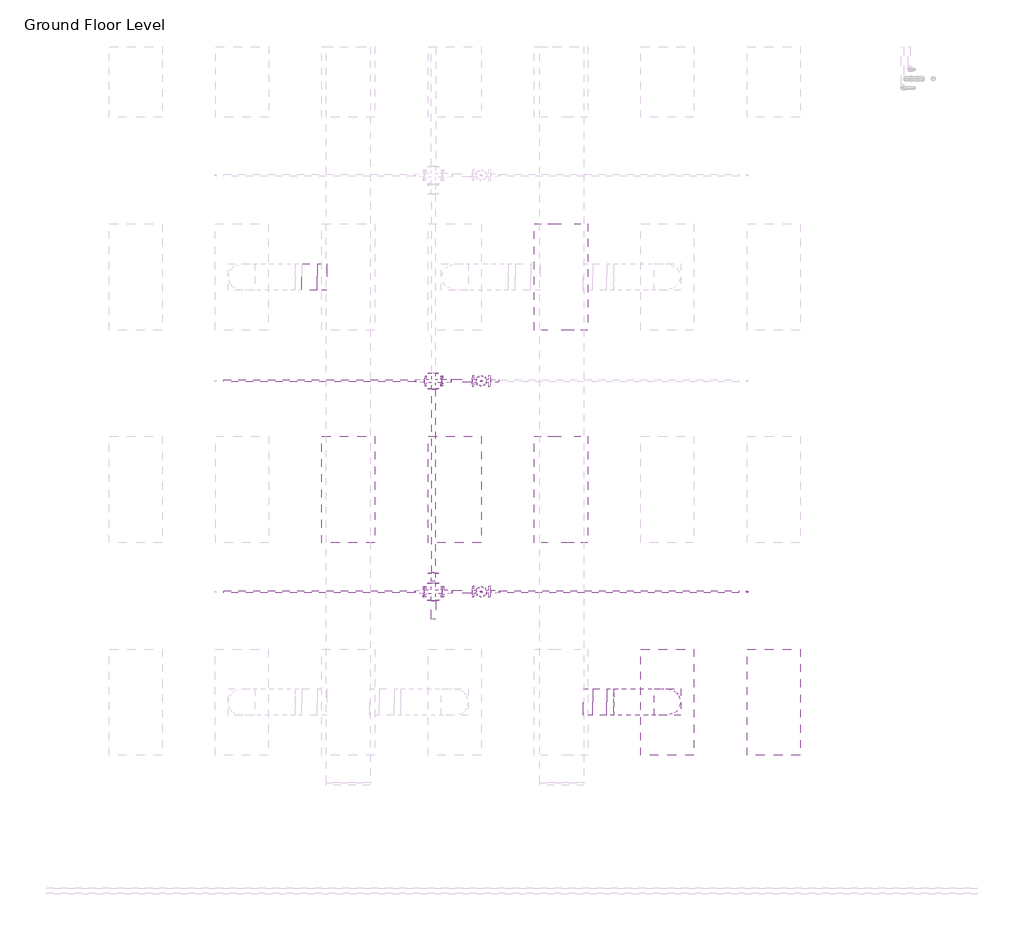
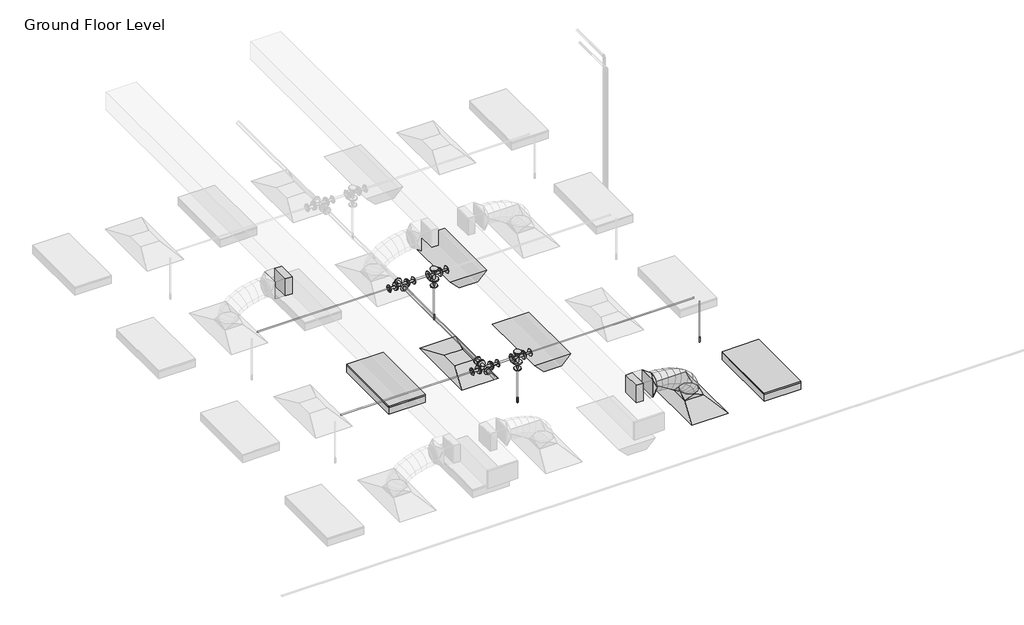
# One storey, part 45 of 74: 13 pipe fittings, 10 pipe segments, 4 duct fittings, 4 light fixtures, 3 duct segments, 3 fire suppression terminals, 2 air terminals.
"""IFC4 building model written with IfcOpenShell, lengths in millimetres."""

from ifc_helpers import new_model, si_unit, point, frame, frame_2d, origin, place, context, project, spatial, polyline, circle_curve, ellipse_curve, trimmed, segment, composite_curve, outline, extrude, transform, mapped, element, save
from ifc_brep_helpers import plane_surface, cylinder_surface, advanced_brep
from components import m_return_diffuser_1200x600_1200_x_600_face_300_x_300_d1983ef6, m_rectangular_takeoff_standard_cb0ccb98, m_rectangular_takeoff_standard_2be5eba1, m_rectangular_to_round_transition_angle_45_degree_641efff0, m_sprinkler_dry_pendent_hosted_15_mm_dry_pendent_9bda8e11, m_emergency_recessed_lighting_fixture_600x1200_277_5b10b25d, m_troffer_light_parabolic_rectangular1_0600x1200mm_4_lamp_86473d4a, m_cross_flanged_cs_class_150_standard_fc817054, m_cross_flanged_cs_class_150_standard_46ec961b, m_reducer_flanged_cs_class_150_standard_b6b67c23, m_reducer_flanged_cs_class_150_standard_ccf252ad, m_reducer_flanged_cs_class_150_standard_d42b2106, m_reducer_flanged_cs_class_150_standard_cc2a7c1d, m_reducer_flanged_cs_class_150_standard_83138b42, m_reducer_flanged_cs_class_150_standard_564df86d, m_reducer_flanged_cs_class_150_standard_8338f9e4, m_tee_round_base_flanged_cs_class_150_standard_7e5987a1

model = new_model("IFC4")

# Units and contexts
model_context = context("Model", 3, world=origin())
ifc_project = project(units=[si_unit("LENGTHUNIT", "METRE", prefix="MILLI")], contexts=[model_context])

# Site, building, storey
site = spatial("IfcSite", under=ifc_project)
building = spatial("IfcBuilding", under=site)
storey = spatial("IfcBuildingStorey", under=building, Name="Ground Floor Level", Elevation=900.0)

# Air terminals
placement = place(None, origin())
m_return_diffuser_1200x600_1200_x_600_face_300_x_300_shape = m_return_diffuser_1200x600_1200_x_600_face_300_x_300_d1983ef6(model_context)
element("IfcAirTerminal", 1, ObjectType="M_Return Diffuser 1200x600 : 1200 x 600 Face 300 x 300 Connection", at=placement, inside=storey, context=model_context, shape_type="MappedRepresentation", body=[
    mapped(m_return_diffuser_1200x600_1200_x_600_face_300_x_300_shape, transform((-5737.2327605, 4035.2153534, 3650.0), x_axis=(0.0, 1.0, 0.0), y_axis=(-1.0, 0.0, 0.0), z_axis=(0.0, 0.0, 1.0))),
])
element("IfcAirTerminal", 2, ObjectType="M_Supply Diffuser 1200x600 : 1200 x 600 Face 300 x 300 Connection", at=placement, inside=storey, context=model_context, shape_type="MappedRepresentation", body=[
    mapped(m_return_diffuser_1200x600_1200_x_600_face_300_x_300_shape, transform((-3337.2327605, 1635.2153534, 3650.0), x_axis=(0.0, 1.0, 0.0), y_axis=(-1.0, 0.0, 0.0), z_axis=(0.0, 0.0, 1.0))),
])

# Duct fittings
m_rectangular_takeoff_standard_shape = m_rectangular_takeoff_standard_cb0ccb98(model_context)
element("IfcDuctFitting", 3, ObjectType="M_Rectangular Takeoff : Standard", at=placement, inside=storey, context=model_context, shape_type="MappedRepresentation", body=[
    mapped(m_rectangular_takeoff_standard_shape, transform((-4278.6910789, 1635.2153534, 4150.0), x_axis=(1.0, 0.0, 0.0), y_axis=(0.0, -1.0, 0.0), z_axis=(0.0, 0.0, -1.0))),
])
m_rectangular_takeoff_standard_2_shape = m_rectangular_takeoff_standard_2be5eba1(model_context)
element("IfcDuctFitting", 4, ObjectType="M_Rectangular Takeoff : Standard", at=placement, inside=storey, context=model_context, shape_type="MappedRepresentation", body=[
    mapped(m_rectangular_takeoff_standard_2_shape, transform((-7189.6910789, 6435.2153534, 4150.0), x_axis=(-1.0, 0.0, 0.0), y_axis=(0.0, 1.0, 0.0), z_axis=(0.0, 0.0, -1.0))),
])
m_rectangular_to_round_transition_angle_45_degree_shape = m_rectangular_to_round_transition_angle_45_degree_641efff0(model_context)
element("IfcDuctFitting", 5, ObjectType="M_Rectangular to Round Transition - Angle : 45 Degree", at=placement, inside=storey, context=model_context, shape_type="MappedRepresentation", body=[
    mapped(m_rectangular_to_round_transition_angle_45_degree_shape, transform((-3337.2327605, 1635.2153534, 3751.6), x_axis=(0.0, 0.0, 1.0), y_axis=(-1.0, 0.0, 0.0), z_axis=(0.0, -1.0, 0.0))),
])
element("IfcDuctFitting", 6, ObjectType="M_Rectangular to Round Transition - Angle : 45 Degree", at=placement, inside=storey, context=model_context, shape_type="MappedRepresentation", body=[
    mapped(m_rectangular_to_round_transition_angle_45_degree_shape, transform((-4018.6354231, 1635.2153534, 4150.0), x_axis=(1.0, 0.0, 0.0), y_axis=(0.0, 1.0, 0.0), z_axis=(0.0, 0.0, 1.0))),
])

# Duct segments
element("IfcDuctSegment", 7, ObjectType="Flex - Round", at=placement, inside=storey, context=model_context, shape_type="AdvancedBrep", body=[
    advanced_brep(
    [(-3187.2327605, 1635.2153534, 3826.6), (-3337.2327605, 1485.2153534, 3826.6), (-3487.2327605, 1635.2153534, 3826.6), (-3337.2327605, 1785.2153534, 3826.6), (-3187.2327605, 1635.2153534, 3882.1248592), (-3337.2327605, 1485.2153534, 3857.3041834), (-3487.2327605, 1635.2153534, 3832.4835076), (-3337.2327605, 1785.2153534, 3857.3041834), (-3218.4243187, 1635.2153534, 3973.7949392), (-3353.8931369, 1485.2153534, 3906.2680098), (-3489.3619552, 1635.2153534, 3838.7410804), (-3353.8931369, 1785.2153534, 3906.2680098), (-3288.1539292, 1635.2153534, 4076.405552), (-3399.7683605, 1485.2153534, 3973.775698), (-3511.3827919, 1635.2153534, 3871.1458441), (-3399.7683605, 1785.2153534, 3973.775698), (-3386.0764792, 1635.2153534, 4155.7044937), (-3468.6995729, 1485.2153534, 4029.5970813), (-3551.3226667, 1635.2153534, 3903.4896689), (-3468.6995729, 1785.2153534, 4029.5970813), (-3494.8156459, 1635.2153534, 4212.2214394), (-3554.5279158, 1485.2153534, 4074.206176), (-3614.2401856, 1635.2153534, 3936.1909126), (-3554.5279158, 1785.2153534, 4074.206176), (-3609.1022421, 1635.2153534, 4252.3075608), (-3651.0945306, 1485.2153534, 4108.0769988), (-3693.0868191, 1635.2153534, 3963.8464368), (-3651.0945306, 1785.2153534, 4108.0769988), (-3724.828557, 1635.2153534, 4279.3170349), (-3752.240559, 1485.2153534, 4131.683566), (-3779.652561, 1635.2153534, 3984.0500972), (-3752.240559, 1785.2153534, 4131.683566), (-3837.483737, 1635.2153534, 4294.9495984), (-3851.8071426, 1485.2153534, 4145.4998943), (-3866.1305483, 1635.2153534, 3996.0501901), (-3851.8071426, 1785.2153534, 4145.4998943), (-3932.3013868, 1635.2153534, 4300.0), (-3936.2933845, 1485.2153534, 4150.0), (-3940.2853822, 1635.2153534, 4000.0), (-3936.2933845, 1785.2153534, 4150.0), (-3943.6354231, 1635.2153534, 4300.0), (-3943.6354231, 1785.2153534, 4150.0), (-3943.6354231, 1635.2153534, 4000.0), (-3943.6354231, 1485.2153534, 4150.0)],
    [
        (0, 1, circle_curve(frame((-3337.2327605, 1635.2153534, 3826.6), z_axis=(0.0, 0.0, -1.0), x_axis=(1.0, 0.0, 0.0)), 150.0)),
        (1, 2, circle_curve(frame((-3337.2327605, 1635.2153534, 3826.6), z_axis=(0.0, 0.0, -1.0), x_axis=(1.0, 0.0, 0.0)), 150.0)),
        (2, 3, circle_curve(frame((-3337.2327605, 1635.2153534, 3826.6), z_axis=(0.0, 0.0, -1.0), x_axis=(1.0, 0.0, 0.0)), 150.0)),
        (3, 0, circle_curve(frame((-3337.2327605, 1635.2153534, 3826.6), z_axis=(0.0, 0.0, -1.0), x_axis=(1.0, 0.0, 0.0)), 150.0)),
        (0, 4),
        (4, 5, ellipse_curve(frame((-3337.2327605, 1635.2153534, 3857.3041834), z_axis=(0.16325129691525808, 0.0, -0.9865845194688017), x_axis=(-0.9865845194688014, 0.0, -0.16325129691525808)), 152.0396854, 150.0)),
        (5, 1),
        (5, 6, ellipse_curve(frame((-3337.2327605, 1635.2153534, 3857.3041834), z_axis=(0.16325129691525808, 0.0, -0.9865845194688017), x_axis=(-0.9865845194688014, 0.0, -0.16325129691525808)), 152.0396854, 150.0)),
        (6, 2),
        (6, 7, ellipse_curve(frame((-3337.2327605, 1635.2153534, 3857.3041834), z_axis=(0.16325129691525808, 0.0, -0.9865845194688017), x_axis=(-0.9865845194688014, 0.0, -0.16325129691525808)), 152.0396854, 150.0)),
        (7, 3),
        (7, 4, ellipse_curve(frame((-3337.2327605, 1635.2153534, 3857.3041834), z_axis=(0.16325129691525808, 0.0, -0.9865845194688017), x_axis=(-0.9865845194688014, 0.0, -0.16325129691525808)), 152.0396854, 150.0)),
        (4, 8),
        (8, 9, ellipse_curve(frame((-3353.8931369, 1635.2153534, 3906.2680098), z_axis=(0.4461166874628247, 0.0, -0.894974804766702), x_axis=(-0.8949748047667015, 0.0, -0.4461166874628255)), 151.3660692, 150.0)),
        (9, 5),
        (9, 10, ellipse_curve(frame((-3353.8931369, 1635.2153534, 3906.2680098), z_axis=(0.4461166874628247, 0.0, -0.894974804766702), x_axis=(-0.8949748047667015, 0.0, -0.4461166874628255)), 151.3660692, 150.0)),
        (10, 6),
        (10, 11, ellipse_curve(frame((-3353.8931369, 1635.2153534, 3906.2680098), z_axis=(0.4461166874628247, 0.0, -0.894974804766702), x_axis=(-0.8949748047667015, 0.0, -0.4461166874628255)), 151.3660692, 150.0)),
        (11, 7),
        (11, 8, ellipse_curve(frame((-3353.8931369, 1635.2153534, 3906.2680098), z_axis=(0.4461166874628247, 0.0, -0.894974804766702), x_axis=(-0.8949748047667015, 0.0, -0.4461166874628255)), 151.3660692, 150.0)),
        (8, 12),
        (12, 13, ellipse_curve(frame((-3399.7683605, 1635.2153534, 3973.775698), z_axis=(0.6768585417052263, 0.0, -0.7361131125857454), x_axis=(-0.736113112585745, 0.0, -0.6768585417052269)), 151.6267398, 150.0)),
        (13, 9),
        (13, 14, ellipse_curve(frame((-3399.7683605, 1635.2153534, 3973.775698), z_axis=(0.6768585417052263, 0.0, -0.7361131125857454), x_axis=(-0.736113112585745, 0.0, -0.6768585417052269)), 151.6267398, 150.0)),
        (14, 10),
        (14, 15, ellipse_curve(frame((-3399.7683605, 1635.2153534, 3973.775698), z_axis=(0.6768585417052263, 0.0, -0.7361131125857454), x_axis=(-0.736113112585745, 0.0, -0.6768585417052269)), 151.6267398, 150.0)),
        (15, 11),
        (15, 12, ellipse_curve(frame((-3399.7683605, 1635.2153534, 3973.775698), z_axis=(0.6768585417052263, 0.0, -0.7361131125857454), x_axis=(-0.736113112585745, 0.0, -0.6768585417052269)), 151.6267398, 150.0)),
        (12, 16),
        (16, 17, ellipse_curve(frame((-3468.6995729, 1635.2153534, 4029.5970813), z_axis=(0.8364581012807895, 0.0, -0.5480308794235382), x_axis=(-0.5480308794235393, 0.0, -0.8364581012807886)), 150.7635735, 150.0)),
        (17, 13),
        (17, 18, ellipse_curve(frame((-3468.6995729, 1635.2153534, 4029.5970813), z_axis=(0.8364581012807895, 0.0, -0.5480308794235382), x_axis=(-0.5480308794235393, 0.0, -0.8364581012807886)), 150.7635735, 150.0)),
        (18, 14),
        (18, 19, ellipse_curve(frame((-3468.6995729, 1635.2153534, 4029.5970813), z_axis=(0.8364581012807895, 0.0, -0.5480308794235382), x_axis=(-0.5480308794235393, 0.0, -0.8364581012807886)), 150.7635735, 150.0)),
        (19, 15),
        (19, 16, ellipse_curve(frame((-3468.6995729, 1635.2153534, 4029.5970813), z_axis=(0.8364581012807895, 0.0, -0.5480308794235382), x_axis=(-0.5480308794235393, 0.0, -0.8364581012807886)), 150.7635735, 150.0)),
        (16, 20),
        (20, 21, ellipse_curve(frame((-3554.5279158, 1635.2153534, 4074.206176), z_axis=(0.9177843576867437, 0.0, -0.3970791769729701), x_axis=(-0.39707917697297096, 0.0, -0.9177843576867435)), 150.3787488, 150.0)),
        (21, 17),
        (21, 22, ellipse_curve(frame((-3554.5279158, 1635.2153534, 4074.206176), z_axis=(0.9177843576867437, 0.0, -0.3970791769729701), x_axis=(-0.39707917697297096, 0.0, -0.9177843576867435)), 150.3787488, 150.0)),
        (22, 18),
        (22, 23, ellipse_curve(frame((-3554.5279158, 1635.2153534, 4074.206176), z_axis=(0.9177843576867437, 0.0, -0.3970791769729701), x_axis=(-0.39707917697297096, 0.0, -0.9177843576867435)), 150.3787488, 150.0)),
        (23, 19),
        (23, 20, ellipse_curve(frame((-3554.5279158, 1635.2153534, 4074.206176), z_axis=(0.9177843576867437, 0.0, -0.3970791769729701), x_axis=(-0.39707917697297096, 0.0, -0.9177843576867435)), 150.3787488, 150.0)),
        (20, 24),
        (24, 25, ellipse_curve(frame((-3651.0945306, 1635.2153534, 4108.0769988), z_axis=(0.9601340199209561, 0.0, -0.27954009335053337), x_axis=(-0.2795400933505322, 0.0, -0.9601340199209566)), 150.2191975, 150.0)),
        (25, 21),
        (25, 26, ellipse_curve(frame((-3651.0945306, 1635.2153534, 4108.0769988), z_axis=(0.9601340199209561, 0.0, -0.27954009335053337), x_axis=(-0.2795400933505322, 0.0, -0.9601340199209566)), 150.2191975, 150.0)),
        (26, 22),
        (26, 27, ellipse_curve(frame((-3651.0945306, 1635.2153534, 4108.0769988), z_axis=(0.9601340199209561, 0.0, -0.27954009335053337), x_axis=(-0.2795400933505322, 0.0, -0.9601340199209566)), 150.2191975, 150.0)),
        (27, 23),
        (27, 24, ellipse_curve(frame((-3651.0945306, 1635.2153534, 4108.0769988), z_axis=(0.9601340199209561, 0.0, -0.27954009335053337), x_axis=(-0.2795400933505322, 0.0, -0.9601340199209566)), 150.2191975, 150.0)),
        (24, 28),
        (28, 29, ellipse_curve(frame((-3752.240559, 1635.2153534, 4131.683566), z_axis=(0.983195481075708, 0.0, -0.1825558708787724), x_axis=(-0.18255587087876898, 0.0, -0.9831954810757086)), 150.1567813, 150.0)),
        (29, 25),
        (29, 30, ellipse_curve(frame((-3752.240559, 1635.2153534, 4131.683566), z_axis=(0.983195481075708, 0.0, -0.1825558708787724), x_axis=(-0.18255587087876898, 0.0, -0.9831954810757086)), 150.1567813, 150.0)),
        (30, 26),
        (30, 31, ellipse_curve(frame((-3752.240559, 1635.2153534, 4131.683566), z_axis=(0.983195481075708, 0.0, -0.1825558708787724), x_axis=(-0.18255587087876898, 0.0, -0.9831954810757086)), 150.1567813, 150.0)),
        (31, 27),
        (31, 28, ellipse_curve(frame((-3752.240559, 1635.2153534, 4131.683566), z_axis=(0.983195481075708, 0.0, -0.1825558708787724), x_axis=(-0.18255587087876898, 0.0, -0.9831954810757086)), 150.1567813, 150.0)),
        (28, 32),
        (32, 33, ellipse_curve(frame((-3851.8071426, 1635.2153534, 4145.4998943), z_axis=(0.995438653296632, 0.0, -0.09540381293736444), x_axis=(-0.09540381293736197, 0.0, -0.9954386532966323)), 150.1345197, 150.0)),
        (33, 29),
        (33, 34, ellipse_curve(frame((-3851.8071426, 1635.2153534, 4145.4998943), z_axis=(0.995438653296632, 0.0, -0.09540381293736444), x_axis=(-0.09540381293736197, 0.0, -0.9954386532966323)), 150.1345197, 150.0)),
        (34, 30),
        (34, 35, ellipse_curve(frame((-3851.8071426, 1635.2153534, 4145.4998943), z_axis=(0.995438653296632, 0.0, -0.09540381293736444), x_axis=(-0.09540381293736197, 0.0, -0.9954386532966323)), 150.1345197, 150.0)),
        (35, 31),
        (35, 32, ellipse_curve(frame((-3851.8071426, 1635.2153534, 4145.4998943), z_axis=(0.995438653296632, 0.0, -0.09540381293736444), x_axis=(-0.09540381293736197, 0.0, -0.9954386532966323)), 150.1345197, 150.0)),
        (32, 36),
        (36, 37, ellipse_curve(frame((-3936.2933845, 1635.2153534, 4150.0), z_axis=(0.9996460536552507, 0.0, -0.026603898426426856), x_axis=(-0.026603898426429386, 0.0, -0.9996460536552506)), 150.0531108, 150.0)),
        (37, 33),
        (37, 38, ellipse_curve(frame((-3936.2933845, 1635.2153534, 4150.0), z_axis=(0.9996460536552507, 0.0, -0.026603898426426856), x_axis=(-0.026603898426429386, 0.0, -0.9996460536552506)), 150.0531108, 150.0)),
        (38, 34),
        (38, 39, ellipse_curve(frame((-3936.2933845, 1635.2153534, 4150.0), z_axis=(0.9996460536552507, 0.0, -0.026603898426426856), x_axis=(-0.026603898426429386, 0.0, -0.9996460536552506)), 150.0531108, 150.0)),
        (39, 35),
        (39, 36, ellipse_curve(frame((-3936.2933845, 1635.2153534, 4150.0), z_axis=(0.9996460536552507, 0.0, -0.026603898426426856), x_axis=(-0.026603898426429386, 0.0, -0.9996460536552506)), 150.0531108, 150.0)),
        (40, 41, circle_curve(frame((-3943.6354231, 1635.2153534, 4150.0), z_axis=(-1.0, 0.0, 0.0), x_axis=(0.0, 0.0, 1.0)), 150.0)),
        (41, 42, circle_curve(frame((-3943.6354231, 1635.2153534, 4150.0), z_axis=(-1.0, 0.0, 0.0), x_axis=(0.0, 0.0, 1.0)), 150.0)),
        (42, 43, circle_curve(frame((-3943.6354231, 1635.2153534, 4150.0), z_axis=(-1.0, 0.0, 0.0), x_axis=(0.0, 0.0, 1.0)), 150.0)),
        (43, 40, circle_curve(frame((-3943.6354231, 1635.2153534, 4150.0), z_axis=(-1.0, 0.0, 0.0), x_axis=(0.0, 0.0, 1.0)), 150.0)),
        (36, 40),
        (43, 37),
        (42, 38),
        (41, 39),
    ],
    [
        plane_surface(frame((-3337.2327605, 1485.2153534, 3826.6), z_axis=(0.0, 0.0, -1.0), x_axis=(1.0, 0.0, 0.0))),
        cylinder_surface(frame((-3337.2327605, 1635.2153534, 3826.6), z_axis=(0.0, 0.0, -1.0), x_axis=(1.0, 0.0, 0.0)), 150.0),
        cylinder_surface(frame((-3337.2327605, 1635.2153534, 3857.3041834), z_axis=(0.3221224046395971, 0.0, -0.9466980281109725), x_axis=(0.9466980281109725, 0.0, 0.3221224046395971)), 150.0),
        cylinder_surface(frame((-3353.8931369, 1635.2153534, 3906.2680098), z_axis=(0.5620586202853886, 0.0, -0.827097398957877), x_axis=(0.827097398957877, 0.0, 0.5620586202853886)), 150.0),
        cylinder_surface(frame((-3399.7683605, 1635.2153534, 3973.775698), z_axis=(0.7771349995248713, 0.0, -0.6293339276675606), x_axis=(0.6293339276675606, 0.0, 0.7771349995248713)), 150.0),
        cylinder_surface(frame((-3468.6995729, 1635.2153534, 4029.5970813), z_axis=(0.887308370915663, 0.0, -0.46117659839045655), x_axis=(0.46117659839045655, 0.0, 0.887308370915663)), 150.0),
        cylinder_surface(frame((-3554.5279158, 1635.2153534, 4074.206176), z_axis=(0.9436372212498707, 0.0, -0.3309815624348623), x_axis=(0.3309815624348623, 0.0, 0.9436372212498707)), 150.0),
        cylinder_surface(frame((-3651.0945306, 1635.2153534, 4108.0769988), z_axis=(0.9738287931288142, 0.0, -0.22728282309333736), x_axis=(0.22728282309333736, 0.0, 0.9738287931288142)), 150.0),
        cylinder_surface(frame((-3752.240559, 1635.2153534, 4131.683566), z_axis=(0.9905090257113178, 0.0, -0.13744769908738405), x_axis=(0.13744769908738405, 0.0, 0.9905090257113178)), 150.0),
        cylinder_surface(frame((-3851.8071426, 1635.2153534, 4145.4998943), z_axis=(0.9985844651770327, 0.0, -0.05318896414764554), x_axis=(0.05318896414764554, 0.0, 0.9985844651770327)), 150.0),
        plane_surface(frame((-3943.6354231, 1635.2153534, 4000.0), z_axis=(-1.0, 0.0, 0.0), x_axis=(0.0, -1.0, 0.0))),
        cylinder_surface(frame((-3936.2933845, 1635.2153534, 4150.0), z_axis=(1.0, 0.0, 0.0), x_axis=(0.0, 0.0, 1.0)), 150.0),
    ],
    [
        (0, [[1, 2, 3, 4]]),
        (1, [[-1, 5, 6, 7]]),
        (1, [[-2, -7, 8, 9]]),
        (1, [[-3, -9, 10, 11]]),
        (1, [[-4, -11, 12, -5]]),
        (2, [[-6, 13, 14, 15]]),
        (2, [[-8, -15, 16, 17]]),
        (2, [[-10, -17, 18, 19]]),
        (2, [[-12, -19, 20, -13]]),
        (3, [[-14, 21, 22, 23]]),
        (3, [[-16, -23, 24, 25]]),
        (3, [[-18, -25, 26, 27]]),
        (3, [[-20, -27, 28, -21]]),
        (4, [[-22, 29, 30, 31]]),
        (4, [[-24, -31, 32, 33]]),
        (4, [[-26, -33, 34, 35]]),
        (4, [[-28, -35, 36, -29]]),
        (5, [[-30, 37, 38, 39]]),
        (5, [[-32, -39, 40, 41]]),
        (5, [[-34, -41, 42, 43]]),
        (5, [[-36, -43, 44, -37]]),
        (6, [[-38, 45, 46, 47]]),
        (6, [[-40, -47, 48, 49]]),
        (6, [[-42, -49, 50, 51]]),
        (6, [[-44, -51, 52, -45]]),
        (7, [[-46, 53, 54, 55]]),
        (7, [[-48, -55, 56, 57]]),
        (7, [[-50, -57, 58, 59]]),
        (7, [[-52, -59, 60, -53]]),
        (8, [[-54, 61, 62, 63]]),
        (8, [[-56, -63, 64, 65]]),
        (8, [[-58, -65, 66, 67]]),
        (8, [[-60, -67, 68, -61]]),
        (9, [[-62, 69, 70, 71]]),
        (9, [[-64, -71, 72, 73]]),
        (9, [[-66, -73, 74, 75]]),
        (9, [[-68, -75, 76, -69]]),
        (10, [[77, 78, 79, 80]]),
        (11, [[-70, 81, -80, 82]]),
        (11, [[-72, -82, -79, 83]]),
        (11, [[-74, -83, -78, 84]]),
        (11, [[-76, -84, -77, -81]]),
    ],
),
])
element("IfcDuctSegment", 8, ObjectType="Radius Elbows / Taps", at=placement, inside=storey, context=model_context, shape_type="SweptSolid", body=[
    extrude(outline(polyline([(-7291.2910789, 6585.2153534), (-7291.2910789, 6285.2153534), (-7461.2487616, 6285.2153534), (-7461.2487616, 6585.2153534), (-7291.2910789, 6585.2153534)])), frame((0.0, 0.0, 4000.0), z_axis=(0.0, 0.0, 1.0), x_axis=(1.0, 0.0, 0.0)), (0.0, 0.0, 1.0), 300.0),
])
element("IfcDuctSegment", 9, ObjectType="Radius Elbows / Taps", at=placement, inside=storey, context=model_context, shape_type="SweptSolid", body=[
    extrude(outline(polyline([(-4177.0910789, 1485.2153534), (-4177.0910789, 1785.2153534), (-4018.6354231, 1785.2153534), (-4018.6354231, 1485.2153534), (-4177.0910789, 1485.2153534)])), frame((0.0, 0.0, 4000.0), z_axis=(0.0, 0.0, 1.0), x_axis=(1.0, 0.0, 0.0)), (0.0, 0.0, 1.0), 300.0),
])

# Fire suppression terminals
m_sprinkler_dry_pendent_hosted_15_mm_dry_pendent_shape = m_sprinkler_dry_pendent_hosted_15_mm_dry_pendent_9bda8e11(model_context)
element("IfcFireSuppressionTerminal", 10, ObjectType="M_Sprinkler - Dry - Pendent - Hosted : 15 mm Dry Pendent", at=placement, inside=storey, context=model_context, shape_type="MappedRepresentation", body=[
    mapped(m_sprinkler_dry_pendent_hosted_15_mm_dry_pendent_shape, transform((-5437.2327605, 5261.0372753, 3650.0), x_axis=(1.0, 0.0, 0.0), y_axis=(0.0, -1.0, 0.0), z_axis=(0.0, 0.0, -1.0))),
])
element("IfcFireSuppressionTerminal", 11, ObjectType="M_Sprinkler - Dry - Pendent - Hosted : 15 mm Dry Pendent", at=placement, inside=storey, context=model_context, shape_type="MappedRepresentation", body=[
    mapped(m_sprinkler_dry_pendent_hosted_15_mm_dry_pendent_shape, transform((-2437.2327605, 2881.5134565, 3650.0), x_axis=(1.0, 0.0, 0.0), y_axis=(0.0, -1.0, 0.0), z_axis=(0.0, 0.0, -1.0))),
])
element("IfcFireSuppressionTerminal", 12, ObjectType="M_Sprinkler - Dry - Pendent - Hosted : 15 mm Dry Pendent", at=placement, inside=storey, context=model_context, shape_type="MappedRepresentation", body=[
    mapped(m_sprinkler_dry_pendent_hosted_15_mm_dry_pendent_shape, transform((-5437.2327605, 2881.5134565, 3650.0), x_axis=(1.0, 0.0, 0.0), y_axis=(0.0, -1.0, 0.0), z_axis=(0.0, 0.0, -1.0))),
])

# Light fixtures
m_emergency_recessed_lighting_fixture_600x1200_277_shape = m_emergency_recessed_lighting_fixture_600x1200_277_5b10b25d(model_context)
element("IfcLightFixture", 13, ObjectType="M_Emergency Recessed Lighting Fixture : 600x1200 - 277", at=placement, inside=storey, context=model_context, shape_type="MappedRepresentation", body=[
    mapped(m_emergency_recessed_lighting_fixture_600x1200_277_shape, transform((-4837.2327605, 5835.2153534, 3650.0), x_axis=(0.0, 1.0, 0.0), y_axis=(-1.0, 0.0, 0.0), z_axis=(0.0, 0.0, 1.0))),
])
element("IfcLightFixture", 14, ObjectType="M_Emergency Recessed Lighting Fixture : 600x1200 - 277", at=placement, inside=storey, context=model_context, shape_type="MappedRepresentation", body=[
    mapped(m_emergency_recessed_lighting_fixture_600x1200_277_shape, transform((-4837.2327605, 3435.2153534, 3650.0), x_axis=(0.0, 1.0, 0.0), y_axis=(-1.0, 0.0, 0.0), z_axis=(0.0, 0.0, 1.0))),
])
m_troffer_light_parabolic_rectangular1_0600x1200mm_4_lamp_shape = m_troffer_light_parabolic_rectangular1_0600x1200mm_4_lamp_86473d4a(model_context)
element("IfcLightFixture", 15, ObjectType="M_Troffer Light - Parabolic Rectangular1 : 0600x1200mm(4 Lamp) - 277V 2", at=placement, inside=storey, context=model_context, shape_type="MappedRepresentation", body=[
    mapped(m_troffer_light_parabolic_rectangular1_0600x1200mm_4_lamp_shape, transform((-6996.6986926, 4053.918855, 3650.0), x_axis=(0.0, 1.0, 0.0), y_axis=(-1.0, 0.0, 0.0), z_axis=(0.0, 0.0, 1.0))),
])
element("IfcLightFixture", 16, ObjectType="M_Troffer Light - Parabolic Rectangular1 : 0600x1200mm(4 Lamp) - 277V 2", at=placement, inside=storey, context=model_context, shape_type="MappedRepresentation", body=[
    mapped(m_troffer_light_parabolic_rectangular1_0600x1200mm_4_lamp_shape, transform((-2196.6986926, 1653.918855, 3650.0), x_axis=(0.0, 1.0, 0.0), y_axis=(-1.0, 0.0, 0.0), z_axis=(0.0, 0.0, 1.0))),
])

# Pipe fittings
m_cross_flanged_cs_class_150_standard_shape = m_cross_flanged_cs_class_150_standard_fc817054(model_context)
element("IfcPipeFitting", 17, ObjectType="M_Cross - Flanged - CS - Class 150 : Standard", at=placement, inside=storey, context=model_context, shape_type="MappedRepresentation", body=[
    mapped(m_cross_flanged_cs_class_150_standard_shape, transform((-5978.130502, 2881.5134565, 4360.0), x_axis=(0.0, 1.0, 0.0), y_axis=(1.0, 0.0, 0.0), z_axis=(0.0, 0.0, -1.0))),
])
m_cross_flanged_cs_class_150_standard_2_shape = m_cross_flanged_cs_class_150_standard_46ec961b(model_context)
element("IfcPipeFitting", 18, ObjectType="M_Cross - Flanged - CS - Class 150 : Standard", at=placement, inside=storey, context=model_context, shape_type="MappedRepresentation", body=[
    mapped(m_cross_flanged_cs_class_150_standard_2_shape, transform((-5978.130502, 5261.0372753, 4360.0), x_axis=(0.0, 1.0, 0.0), y_axis=(1.0, 0.0, 0.0), z_axis=(0.0, 0.0, -1.0))),
])
m_reducer_flanged_cs_class_150_standard_shape = m_reducer_flanged_cs_class_150_standard_b6b67c23(model_context)
element("IfcPipeFitting", 19, ObjectType="M_Reducer - Flanged - CS - Class 150 : Standard", at=placement, inside=storey, context=model_context, shape_type="MappedRepresentation", body=[
    mapped(m_reducer_flanged_cs_class_150_standard_shape, transform((-5883.130502, 5261.0372753, 4360.0), x_axis=(1.0, 0.0, 0.0), y_axis=(0.0, 1.0, 0.0), z_axis=(0.0, 0.0, 1.0))),
])
m_reducer_flanged_cs_class_150_standard_2_shape = m_reducer_flanged_cs_class_150_standard_ccf252ad(model_context)
element("IfcPipeFitting", 20, ObjectType="M_Reducer - Flanged - CS - Class 150 : Standard", at=placement, inside=storey, context=model_context, shape_type="MappedRepresentation", body=[
    mapped(m_reducer_flanged_cs_class_150_standard_2_shape, transform((-5437.2327605, 2881.5134565, 4259.2914063), x_axis=(0.0, 0.0, -1.0), y_axis=(-1.0, 0.0, 0.0), z_axis=(0.0, 1.0, 0.0))),
])
element("IfcPipeFitting", 21, ObjectType="M_Reducer - Flanged - CS - Class 150 : Standard", at=placement, inside=storey, context=model_context, shape_type="MappedRepresentation", body=[
    mapped(m_reducer_flanged_cs_class_150_standard_2_shape, transform((-5437.2327605, 5261.0372753, 4259.2914063), x_axis=(0.0, 0.0, -1.0), y_axis=(-1.0, 0.0, 0.0), z_axis=(0.0, 1.0, 0.0))),
])
m_reducer_flanged_cs_class_150_standard_3_shape = m_reducer_flanged_cs_class_150_standard_d42b2106(model_context)
element("IfcPipeFitting", 22, ObjectType="M_Reducer - Flanged - CS - Class 150 : Standard", at=placement, inside=storey, context=model_context, shape_type="MappedRepresentation", body=[
    mapped(m_reducer_flanged_cs_class_150_standard_3_shape, transform((-5336.5241668, 2881.5134565, 4360.0), x_axis=(1.0, 0.0, 0.0), y_axis=(0.0, 1.0, 0.0), z_axis=(0.0, 0.0, 1.0))),
])
element("IfcPipeFitting", 23, ObjectType="M_Reducer - Flanged - CS - Class 150 : Standard", at=placement, inside=storey, context=model_context, shape_type="MappedRepresentation", body=[
    mapped(m_reducer_flanged_cs_class_150_standard_3_shape, transform((-5336.5241668, 5261.0372753, 4360.0), x_axis=(1.0, 0.0, 0.0), y_axis=(0.0, 1.0, 0.0), z_axis=(0.0, 0.0, 1.0))),
])
m_reducer_flanged_cs_class_150_standard_4_shape = m_reducer_flanged_cs_class_150_standard_cc2a7c1d(model_context)
element("IfcPipeFitting", 24, ObjectType="M_Reducer - Flanged - CS - Class 150 : Standard", at=placement, inside=storey, context=model_context, shape_type="MappedRepresentation", body=[
    mapped(m_reducer_flanged_cs_class_150_standard_4_shape, transform((-6073.130502, 5261.0372753, 4360.0), x_axis=(-1.0, 0.0, 0.0), y_axis=(0.0, 0.0, -1.0), z_axis=(0.0, -1.0, 0.0))),
])
m_reducer_flanged_cs_class_150_standard_5_shape = m_reducer_flanged_cs_class_150_standard_83138b42(model_context)
element("IfcPipeFitting", 25, ObjectType="M_Reducer - Flanged - CS - Class 150 : Standard", at=placement, inside=storey, context=model_context, shape_type="MappedRepresentation", body=[
    mapped(m_reducer_flanged_cs_class_150_standard_5_shape, transform((-6080.130502, 2881.5134565, 4360.0), x_axis=(-1.0, 0.0, 0.0), y_axis=(0.0, 0.0, -1.0), z_axis=(0.0, -1.0, 0.0))),
])
m_reducer_flanged_cs_class_150_standard_6_shape = m_reducer_flanged_cs_class_150_standard_564df86d(model_context)
element("IfcPipeFitting", 26, ObjectType="M_Reducer - Flanged - CS - Class 150 : Standard", at=placement, inside=storey, context=model_context, shape_type="MappedRepresentation", body=[
    mapped(m_reducer_flanged_cs_class_150_standard_6_shape, transform((-5978.130502, 2983.5134565, 4360.0), x_axis=(0.0, 1.0, 0.0), y_axis=(-1.0, 0.0, 0.0), z_axis=(0.0, 0.0, 1.0))),
])
m_reducer_flanged_cs_class_150_standard_7_shape = m_reducer_flanged_cs_class_150_standard_8338f9e4(model_context)
element("IfcPipeFitting", 27, ObjectType="M_Reducer - Flanged - CS - Class 150 : Standard", at=placement, inside=storey, context=model_context, shape_type="MappedRepresentation", body=[
    mapped(m_reducer_flanged_cs_class_150_standard_7_shape, transform((-5876.130502, 2881.5134565, 4360.0), x_axis=(1.0, 0.0, 0.0), y_axis=(0.0, 1.0, 0.0), z_axis=(0.0, 0.0, 1.0))),
])
m_tee_round_base_flanged_cs_class_150_standard_shape = m_tee_round_base_flanged_cs_class_150_standard_7e5987a1(model_context)
element("IfcPipeFitting", 28, ObjectType="M_Tee Round Base - Flanged - CS - Class 150 : Standard", at=placement, inside=storey, context=model_context, shape_type="MappedRepresentation", body=[
    mapped(m_tee_round_base_flanged_cs_class_150_standard_shape, transform((-5437.2327605, 2881.5134565, 4360.0), x_axis=(1.0, 0.0, 0.0), y_axis=(0.0, 0.0, 1.0), z_axis=(0.0, -1.0, 0.0))),
])
element("IfcPipeFitting", 29, ObjectType="M_Tee Round Base - Flanged - CS - Class 150 : Standard", at=placement, inside=storey, context=model_context, shape_type="MappedRepresentation", body=[
    mapped(m_tee_round_base_flanged_cs_class_150_standard_shape, transform((-5437.2327605, 5261.0372753, 4360.0), x_axis=(1.0, 0.0, 0.0), y_axis=(0.0, 0.0, 1.0), z_axis=(0.0, -1.0, 0.0))),
])

# Pipe segments
element("IfcPipeSegment", 30, ObjectType="Steel flanged", at=placement, inside=storey, context=model_context, shape_type="SweptSolid", body=[
    extrude(outline(composite_curve([segment(trimmed(circle_curve(frame_2d((5261.0372753, 4360.0)), 10.668), [point((5250.3692753, 4360.0))], [point((5261.0372753, 4370.668))], False, "CARTESIAN"), True, "CONTINUOUS"), segment(trimmed(circle_curve(frame_2d((5261.0372753, 4360.0)), 10.668), [point((5261.0372753, 4370.668))], [point((5271.7052753, 4360.0))], False, "CARTESIAN"), True, "CONTINUOUS"), segment(trimmed(circle_curve(frame_2d((5261.0372753, 4360.0)), 10.668), [point((5271.7052753, 4360.0))], [point((5261.0372753, 4349.332))], False, "CARTESIAN"), True, "CONTINUOUS"), segment(trimmed(circle_curve(frame_2d((5261.0372753, 4360.0)), 10.668), [point((5261.0372753, 4349.332))], [point((5250.3692753, 4360.0))], False, "CARTESIAN"), True, "CONTINUOUS")], self_intersect=False)), frame((-8344.2241668, 0.0, 0.0), z_axis=(1.0, 0.0, 0.0), x_axis=(0.0, 1.0, 0.0)), (0.0, 0.0, 1.0), 2157.0936648),
])
element("IfcPipeSegment", 31, ObjectType="Steel flanged", at=placement, inside=storey, context=model_context, shape_type="SweptSolid", body=[
    extrude(outline(composite_curve([segment(trimmed(circle_curve(frame_2d((2881.5134565, 4360.0)), 10.668), [point((2870.8454565, 4360.0))], [point((2881.5134565, 4370.668))], False, "CARTESIAN"), True, "CONTINUOUS"), segment(trimmed(circle_curve(frame_2d((2881.5134565, 4360.0)), 10.668), [point((2881.5134565, 4370.668))], [point((2892.1814565, 4360.0))], False, "CARTESIAN"), True, "CONTINUOUS"), segment(trimmed(circle_curve(frame_2d((2881.5134565, 4360.0)), 10.668), [point((2892.1814565, 4360.0))], [point((2881.5134565, 4349.332))], False, "CARTESIAN"), True, "CONTINUOUS"), segment(trimmed(circle_curve(frame_2d((2881.5134565, 4360.0)), 10.668), [point((2881.5134565, 4349.332))], [point((2870.8454565, 4360.0))], False, "CARTESIAN"), True, "CONTINUOUS")], self_intersect=False)), frame((-8344.2241668, 0.0, 0.0), z_axis=(1.0, 0.0, 0.0), x_axis=(0.0, 1.0, 0.0)), (0.0, 0.0, 1.0), 2150.0936648),
])
element("IfcPipeSegment", 32, ObjectType="Steel flanged", at=placement, inside=storey, context=model_context, shape_type="SweptSolid", body=[
    extrude(outline(composite_curve([segment(trimmed(circle_curve(frame_2d((0.0, -24.13)), 24.13), [point((0.0, 0.0))], [point((24.13, -24.13))], False, "CARTESIAN"), True, "CONTINUOUS"), segment(trimmed(circle_curve(frame_2d((0.0, -24.13)), 24.13), [point((24.13, -24.13))], [point((0.0, -48.26))], False, "CARTESIAN"), True, "CONTINUOUS"), segment(trimmed(circle_curve(frame_2d((0.0, -24.13)), 24.13), [point((0.0, -48.26))], [point((-24.13, -24.13))], False, "CARTESIAN"), True, "CONTINUOUS"), segment(trimmed(circle_curve(frame_2d((0.0, -24.13)), 24.13), [point((-24.13, -24.13))], [point((0.0, 0.0))], False, "CARTESIAN"), True, "CONTINUOUS")], self_intersect=False)), frame((-6002.260502, 2573.2009828, 4360.0), z_axis=(-1.0658141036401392e-12, 1.0, 0.0), x_axis=(0.0, 0.0, -1.0)), (0.0, 0.0, 1.0), 206.3124738),
])
element("IfcPipeSegment", 33, ObjectType="Steel flanged", at=placement, inside=storey, context=model_context, shape_type="SweptSolid", body=[
    extrude(outline(composite_curve([segment(trimmed(circle_curve(frame_2d((4360.0, -5978.130502)), 21.082), [point((4360.0, -5999.212502))], [point((4338.918, -5978.130502))], False, "CARTESIAN"), True, "CONTINUOUS"), segment(trimmed(circle_curve(frame_2d((4360.0, -5978.130502)), 21.082), [point((4338.918, -5978.130502))], [point((4360.0, -5957.048502))], False, "CARTESIAN"), True, "CONTINUOUS"), segment(trimmed(circle_curve(frame_2d((4360.0, -5978.130502)), 21.082), [point((4360.0, -5957.048502))], [point((4381.082, -5978.130502))], False, "CARTESIAN"), True, "CONTINUOUS"), segment(trimmed(circle_curve(frame_2d((4360.0, -5978.130502)), 21.082), [point((4381.082, -5978.130502))], [point((4360.0, -5999.212502))], False, "CARTESIAN"), True, "CONTINUOUS")], self_intersect=False)), frame((0.0, 3097.5134565, 0.0), z_axis=(0.0, 1.0, 0.0), x_axis=(0.0, 0.0, 1.0)), (0.0, 0.0, 1.0), 2068.5238188),
])
element("IfcPipeSegment", 34, ObjectType="Steel flanged", at=placement, inside=storey, context=model_context, shape_type="SweptSolid", body=[
    extrude(outline(composite_curve([segment(trimmed(circle_curve(frame_2d((-2437.2327605, 2881.5134565)), 10.668), [point((-2447.9007605, 2881.5134565))], [point((-2437.2327605, 2892.1814565))], False, "CARTESIAN"), True, "CONTINUOUS"), segment(trimmed(circle_curve(frame_2d((-2437.2327605, 2881.5134565)), 10.668), [point((-2437.2327605, 2892.1814565))], [point((-2426.5647605, 2881.5134565))], False, "CARTESIAN"), True, "CONTINUOUS"), segment(trimmed(circle_curve(frame_2d((-2437.2327605, 2881.5134565)), 10.668), [point((-2426.5647605, 2881.5134565))], [point((-2437.2327605, 2870.8454565))], False, "CARTESIAN"), True, "CONTINUOUS"), segment(trimmed(circle_curve(frame_2d((-2437.2327605, 2881.5134565)), 10.668), [point((-2437.2327605, 2870.8454565))], [point((-2447.9007605, 2881.5134565))], False, "CARTESIAN"), True, "CONTINUOUS")], self_intersect=False)), frame((0.0, 0.0, 3650.0), z_axis=(0.0, 0.0, 1.0), x_axis=(1.0, 0.0, 0.0)), (0.0, 0.0, 1.0), 616.9914063),
])
element("IfcPipeSegment", 35, ObjectType="Steel flanged", at=placement, inside=storey, context=model_context, shape_type="SweptSolid", body=[
    extrude(outline(composite_curve([segment(trimmed(circle_curve(frame_2d((-5437.2327605, 2881.5134565)), 10.668), [point((-5447.9007605, 2881.5134565))], [point((-5437.2327605, 2892.1814565))], False, "CARTESIAN"), True, "CONTINUOUS"), segment(trimmed(circle_curve(frame_2d((-5437.2327605, 2881.5134565)), 10.668), [point((-5437.2327605, 2892.1814565))], [point((-5426.5647605, 2881.5134565))], False, "CARTESIAN"), True, "CONTINUOUS"), segment(trimmed(circle_curve(frame_2d((-5437.2327605, 2881.5134565)), 10.668), [point((-5426.5647605, 2881.5134565))], [point((-5437.2327605, 2870.8454565))], False, "CARTESIAN"), True, "CONTINUOUS"), segment(trimmed(circle_curve(frame_2d((-5437.2327605, 2881.5134565)), 10.668), [point((-5437.2327605, 2870.8454565))], [point((-5447.9007605, 2881.5134565))], False, "CARTESIAN"), True, "CONTINUOUS")], self_intersect=False)), frame((0.0, 0.0, 3650.0), z_axis=(0.0, 0.0, 1.0), x_axis=(1.0, 0.0, 0.0)), (0.0, 0.0, 1.0), 495.2914062),
])
element("IfcPipeSegment", 36, ObjectType="Steel flanged", at=placement, inside=storey, context=model_context, shape_type="SweptSolid", body=[
    extrude(outline(composite_curve([segment(trimmed(circle_curve(frame_2d((2881.5134565, 4360.0)), 16.7005), [point((2898.2139565, 4360.0))], [point((2881.5134565, 4343.2995))], False, "CARTESIAN"), True, "CONTINUOUS"), segment(trimmed(circle_curve(frame_2d((2881.5134565, 4360.0)), 16.7005), [point((2881.5134565, 4343.2995))], [point((2864.8129565, 4360.0))], False, "CARTESIAN"), True, "CONTINUOUS"), segment(trimmed(circle_curve(frame_2d((2881.5134565, 4360.0)), 16.7005), [point((2864.8129565, 4360.0))], [point((2881.5134565, 4376.7005))], False, "CARTESIAN"), True, "CONTINUOUS"), segment(trimmed(circle_curve(frame_2d((2881.5134565, 4360.0)), 16.7005), [point((2881.5134565, 4376.7005))], [point((2898.2139565, 4360.0))], False, "CARTESIAN"), True, "CONTINUOUS")], self_intersect=False)), frame((-5762.130502, 0.0, 0.0), z_axis=(1.0, 0.0, 0.0), x_axis=(0.0, 1.0, 0.0)), (0.0, 0.0, 1.0), 224.1891477),
])
element("IfcPipeSegment", 37, ObjectType="Steel flanged", at=placement, inside=storey, context=model_context, shape_type="SweptSolid", body=[
    extrude(outline(composite_curve([segment(trimmed(circle_curve(frame_2d((2881.5134565, 4360.0)), 10.668), [point((2892.1814565, 4360.0))], [point((2881.5134565, 4349.332))], False, "CARTESIAN"), True, "CONTINUOUS"), segment(trimmed(circle_curve(frame_2d((2881.5134565, 4360.0)), 10.668), [point((2881.5134565, 4349.332))], [point((2870.8454565, 4360.0))], False, "CARTESIAN"), True, "CONTINUOUS"), segment(trimmed(circle_curve(frame_2d((2881.5134565, 4360.0)), 10.668), [point((2870.8454565, 4360.0))], [point((2881.5134565, 4370.668))], False, "CARTESIAN"), True, "CONTINUOUS"), segment(trimmed(circle_curve(frame_2d((2881.5134565, 4360.0)), 10.668), [point((2881.5134565, 4370.668))], [point((2892.1814565, 4360.0))], False, "CARTESIAN"), True, "CONTINUOUS")], self_intersect=False)), frame((-5222.5241668, 0.0, 0.0), z_axis=(1.0, 0.0, 0.0), x_axis=(0.0, 1.0, 0.0)), (0.0, 0.0, 1.0), 2692.2828125),
])
element("IfcPipeSegment", 38, ObjectType="Steel flanged", at=placement, inside=storey, context=model_context, shape_type="SweptSolid", body=[
    extrude(outline(composite_curve([segment(trimmed(circle_curve(frame_2d((-5437.2327605, 5261.0372753)), 10.668), [point((-5447.9007605, 5261.0372753))], [point((-5437.2327605, 5271.7052753))], False, "CARTESIAN"), True, "CONTINUOUS"), segment(trimmed(circle_curve(frame_2d((-5437.2327605, 5261.0372753)), 10.668), [point((-5437.2327605, 5271.7052753))], [point((-5426.5647605, 5261.0372753))], False, "CARTESIAN"), True, "CONTINUOUS"), segment(trimmed(circle_curve(frame_2d((-5437.2327605, 5261.0372753)), 10.668), [point((-5426.5647605, 5261.0372753))], [point((-5437.2327605, 5250.3692753))], False, "CARTESIAN"), True, "CONTINUOUS"), segment(trimmed(circle_curve(frame_2d((-5437.2327605, 5261.0372753)), 10.668), [point((-5437.2327605, 5250.3692753))], [point((-5447.9007605, 5261.0372753))], False, "CARTESIAN"), True, "CONTINUOUS")], self_intersect=False)), frame((0.0, 0.0, 3650.0), z_axis=(0.0, 0.0, 1.0), x_axis=(1.0, 0.0, 0.0)), (0.0, 0.0, 1.0), 495.2914062),
])
element("IfcPipeSegment", 39, ObjectType="Steel flanged", at=placement, inside=storey, context=model_context, shape_type="SweptSolid", body=[
    extrude(outline(composite_curve([segment(trimmed(circle_curve(frame_2d((5261.0372753, 4360.0)), 16.7005), [point((5277.7377753, 4360.0))], [point((5261.0372753, 4343.2995))], False, "CARTESIAN"), True, "CONTINUOUS"), segment(trimmed(circle_curve(frame_2d((5261.0372753, 4360.0)), 16.7005), [point((5261.0372753, 4343.2995))], [point((5244.3367753, 4360.0))], False, "CARTESIAN"), True, "CONTINUOUS"), segment(trimmed(circle_curve(frame_2d((5261.0372753, 4360.0)), 16.7005), [point((5244.3367753, 4360.0))], [point((5261.0372753, 4376.7005))], False, "CARTESIAN"), True, "CONTINUOUS"), segment(trimmed(circle_curve(frame_2d((5261.0372753, 4360.0)), 16.7005), [point((5261.0372753, 4376.7005))], [point((5277.7377753, 4360.0))], False, "CARTESIAN"), True, "CONTINUOUS")], self_intersect=False)), frame((-5769.130502, 0.0, 0.0), z_axis=(1.0, 0.0, 0.0), x_axis=(0.0, 1.0, 0.0)), (0.0, 0.0, 1.0), 231.1891477),
])

save(model, "model.ifc")
